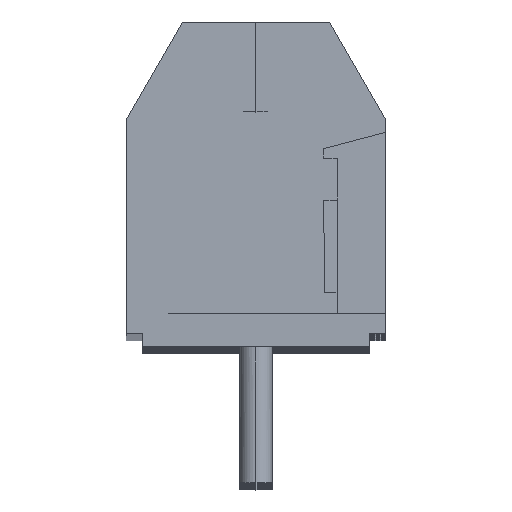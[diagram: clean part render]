
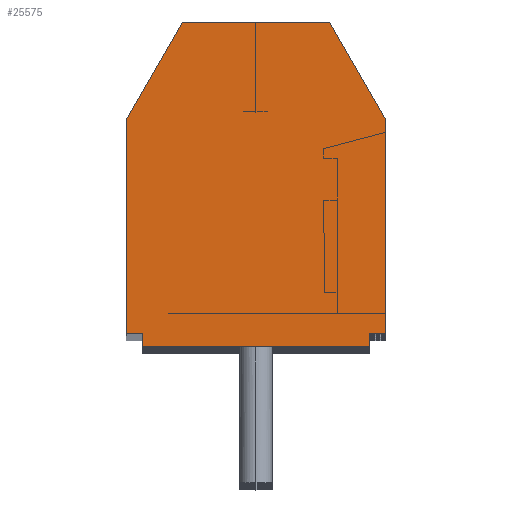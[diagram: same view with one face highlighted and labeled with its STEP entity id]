
A CAD part, top view. The second image highlights one B-rep face of the part: STEP entity #25575.
In plain terms, the highlighted planar face has unit normal (0, 0, 1).
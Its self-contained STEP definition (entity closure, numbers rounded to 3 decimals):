
#1724 = VERTEX_POINT ( 'NONE', #27999 ) ;
#1729 = EDGE_CURVE ( 'NONE', #1724, #1730, #27992, .T. ) ;
#1730 = VERTEX_POINT ( 'NONE', #27988 ) ;
#2115 = VERTEX_POINT ( 'NONE', #28518 ) ;
#2119 = EDGE_CURVE ( 'NONE', #1724, #2115, #28514, .T. ) ;
#22883 = EDGE_CURVE ( 'NONE', #22884, #1730, #64892, .T. ) ;
#22884 = VERTEX_POINT ( 'NONE', #64888 ) ;
#22919 = VERTEX_POINT ( 'NONE', #64949 ) ;
#22921 = EDGE_CURVE ( 'NONE', #22947, #22919, #65011, .T. ) ;
#22927 = EDGE_CURVE ( 'NONE', #22961, #22947, #65007, .T. ) ;
#22947 = VERTEX_POINT ( 'NONE', #64983 ) ;
#22950 = VERTEX_POINT ( 'NONE', #64982 ) ;
#22952 = EDGE_CURVE ( 'NONE', #2115, #22950, #65043, .T. ) ;
#22960 = EDGE_CURVE ( 'NONE', #22950, #22961, #65033, .T. ) ;
#22961 = VERTEX_POINT ( 'NONE', #65029 ) ;
#25515 = EDGE_CURVE ( 'NONE', #22919, #25593, #68777, .T. ) ;
#25558 = ORIENTED_EDGE ( 'NONE', *, *, #22883, .T. ) ;
#25559 = ORIENTED_EDGE ( 'NONE', *, *, #1729, .F. ) ;
#25560 = ORIENTED_EDGE ( 'NONE', *, *, #2119, .T. ) ;
#25561 = ORIENTED_EDGE ( 'NONE', *, *, #22952, .T. ) ;
#25562 = ORIENTED_EDGE ( 'NONE', *, *, #22960, .T. ) ;
#25563 = ORIENTED_EDGE ( 'NONE', *, *, #22927, .T. ) ;
#25564 = ORIENTED_EDGE ( 'NONE', *, *, #22921, .T. ) ;
#25570 = EDGE_CURVE ( 'NONE', #25571, #22884, #68868, .T. ) ;
#25571 = VERTEX_POINT ( 'NONE', #68864 ) ;
#25575 = ADVANCED_FACE ( 'NONE', ( #68859 ), #68858, .T. ) ;
#25576 = EDGE_LOOP ( 'NONE', ( #25577, #25578, #25580, #25558, #25559, #25560, #25561, #25562, #25563, #25564 ) ) ;
#25577 = ORIENTED_EDGE ( 'NONE', *, *, #25515, .T. ) ;
#25578 = ORIENTED_EDGE ( 'NONE', *, *, #25579, .F. ) ;
#25579 = EDGE_CURVE ( 'NONE', #25571, #25593, #68853, .T. ) ;
#25580 = ORIENTED_EDGE ( 'NONE', *, *, #25570, .T. ) ;
#25593 = VERTEX_POINT ( 'NONE', #68902 ) ;
#27988 = CARTESIAN_POINT ( 'NONE',  ( -3.562, -2.845, 0. ) ) ;
#27989 = DIRECTION ( 'NONE',  ( -1., 0., 0. ) ) ;
#27990 = VECTOR ( 'NONE', #27989, 1000. ) ;
#27991 = CARTESIAN_POINT ( 'NONE',  ( -3.562, -2.845, 0. ) ) ;
#27992 = LINE ( 'NONE', #27991, #27990 ) ;
#27999 = CARTESIAN_POINT ( 'NONE',  ( -3.062, -2.845, 0. ) ) ;
#28514 = LINE ( 'NONE', #28555, #28554 ) ;
#28518 = CARTESIAN_POINT ( 'NONE',  ( -3.062, -3.245, 0. ) ) ;
#28553 = DIRECTION ( 'NONE',  ( 0., -1., 0. ) ) ;
#28554 = VECTOR ( 'NONE', #28553, 1000. ) ;
#28555 = CARTESIAN_POINT ( 'NONE',  ( -3.062, -3.045, 0. ) ) ;
#64888 = CARTESIAN_POINT ( 'NONE',  ( -3.562, 3.755, 0. ) ) ;
#64889 = DIRECTION ( 'NONE',  ( 0., -1., 0. ) ) ;
#64890 = VECTOR ( 'NONE', #64889, 1000. ) ;
#64891 = CARTESIAN_POINT ( 'NONE',  ( -3.562, 1.755, 0. ) ) ;
#64892 = LINE ( 'NONE', #64891, #64890 ) ;
#64949 = CARTESIAN_POINT ( 'NONE',  ( 4.438, 3.755, 0. ) ) ;
#64982 = CARTESIAN_POINT ( 'NONE',  ( 3.938, -3.245, 0. ) ) ;
#64983 = CARTESIAN_POINT ( 'NONE',  ( 4.438, -2.845, 0. ) ) ;
#65004 = DIRECTION ( 'NONE',  ( 1., 0., 0. ) ) ;
#65005 = VECTOR ( 'NONE', #65004, 1000. ) ;
#65006 = CARTESIAN_POINT ( 'NONE',  ( 0.438, -2.845, 0. ) ) ;
#65007 = LINE ( 'NONE', #65006, #65005 ) ;
#65008 = DIRECTION ( 'NONE',  ( 0., 1., 0. ) ) ;
#65009 = VECTOR ( 'NONE', #65008, 1000. ) ;
#65010 = CARTESIAN_POINT ( 'NONE',  ( 4.438, -3.245, 0. ) ) ;
#65011 = LINE ( 'NONE', #65010, #65009 ) ;
#65029 = CARTESIAN_POINT ( 'NONE',  ( 3.938, -2.845, 0. ) ) ;
#65030 = DIRECTION ( 'NONE',  ( 0., 1., 0. ) ) ;
#65031 = VECTOR ( 'NONE', #65030, 1000. ) ;
#65032 = CARTESIAN_POINT ( 'NONE',  ( 3.938, 1.755, 0. ) ) ;
#65033 = LINE ( 'NONE', #65032, #65031 ) ;
#65040 = DIRECTION ( 'NONE',  ( 1., 0., 0. ) ) ;
#65041 = VECTOR ( 'NONE', #65040, 1000. ) ;
#65042 = CARTESIAN_POINT ( 'NONE',  ( 0.438, -3.245, 0. ) ) ;
#65043 = LINE ( 'NONE', #65042, #65041 ) ;
#68774 = DIRECTION ( 'NONE',  ( -0.5, 0.866, 0. ) ) ;
#68775 = VECTOR ( 'NONE', #68774, 1000. ) ;
#68776 = CARTESIAN_POINT ( 'NONE',  ( 4.438, 3.755, 0. ) ) ;
#68777 = LINE ( 'NONE', #68776, #68775 ) ;
#68850 = DIRECTION ( 'NONE',  ( 1., 0., 0. ) ) ;
#68851 = VECTOR ( 'NONE', #68850, 1000. ) ;
#68852 = CARTESIAN_POINT ( 'NONE',  ( 2.706, 6.755, 0. ) ) ;
#68853 = LINE ( 'NONE', #68852, #68851 ) ;
#68854 = DIRECTION ( 'NONE',  ( 1., 0., 0. ) ) ;
#68855 = DIRECTION ( 'NONE',  ( 0., 0., 1. ) ) ;
#68856 = CARTESIAN_POINT ( 'NONE',  ( -3.562, -3.245, 0. ) ) ;
#68857 = AXIS2_PLACEMENT_3D ( 'NONE', #68856, #68855, #68854 ) ;
#68858 = PLANE ( 'NONE',  #68857 ) ;
#68859 = FACE_OUTER_BOUND ( 'NONE', #25576, .T. ) ;
#68864 = CARTESIAN_POINT ( 'NONE',  ( -1.83, 6.755, 0. ) ) ;
#68865 = DIRECTION ( 'NONE',  ( -0.5, -0.866, 0. ) ) ;
#68866 = VECTOR ( 'NONE', #68865, 1000. ) ;
#68867 = CARTESIAN_POINT ( 'NONE',  ( -1.83, 6.755, 0. ) ) ;
#68868 = LINE ( 'NONE', #68867, #68866 ) ;
#68902 = CARTESIAN_POINT ( 'NONE',  ( 2.706, 6.755, 0. ) ) ;
